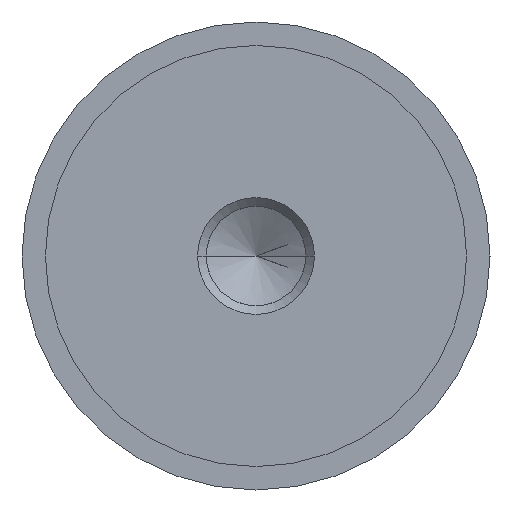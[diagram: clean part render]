
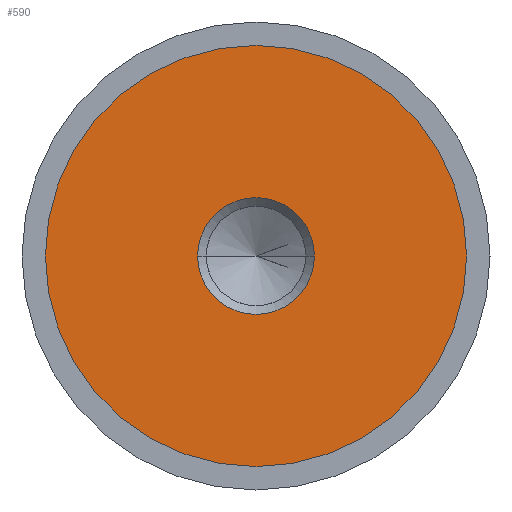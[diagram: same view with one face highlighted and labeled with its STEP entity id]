
A CAD part, left-side view. The second image highlights one B-rep face of the part: STEP entity #590.
In plain terms, the highlighted planar face has unit normal (-1, 0, 0).
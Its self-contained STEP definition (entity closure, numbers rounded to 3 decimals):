
#2 = CARTESIAN_POINT ( 'NONE',  ( -13.99, -4.99, 0. ) ) ;
#5 = EDGE_LOOP ( 'NONE', ( #245, #277 ) ) ;
#24 = CARTESIAN_POINT ( 'NONE',  ( -13.99, 18., 0. ) ) ;
#43 = CARTESIAN_POINT ( 'NONE',  ( -13.99, 0., 0. ) ) ;
#75 = PLANE ( 'NONE',  #603 ) ;
#83 = CARTESIAN_POINT ( 'NONE',  ( -13.99, 0., -18. ) ) ;
#161 = DIRECTION ( 'NONE',  ( 0., 0., 1. ) ) ;
#210 = AXIS2_PLACEMENT_3D ( 'NONE', #417, #472, #529 ) ;
#212 = EDGE_CURVE ( 'NONE', #513, #295, #237, .T. ) ;
#234 = CIRCLE ( 'NONE', #260, 4.99 ) ;
#237 = CIRCLE ( 'NONE', #210, 4.99 ) ;
#243 = CARTESIAN_POINT ( 'NONE',  ( -13.99, 0., 0. ) ) ;
#245 = ORIENTED_EDGE ( 'NONE', *, *, #760, .T. ) ;
#260 = AXIS2_PLACEMENT_3D ( 'NONE', #737, #669, #440 ) ;
#263 = FACE_OUTER_BOUND ( 'NONE', #5, .T. ) ;
#277 = ORIENTED_EDGE ( 'NONE', *, *, #562, .T. ) ;
#283 = EDGE_LOOP ( 'NONE', ( #457, #757 ) ) ;
#295 = VERTEX_POINT ( 'NONE', #744 ) ;
#308 = DIRECTION ( 'NONE',  ( 0., 0., -1. ) ) ;
#312 = AXIS2_PLACEMENT_3D ( 'NONE', #243, #650, #474 ) ;
#327 = DIRECTION ( 'NONE',  ( -1., 0., 0. ) ) ;
#376 = DIRECTION ( 'NONE',  ( 1., 0., 0. ) ) ;
#417 = CARTESIAN_POINT ( 'NONE',  ( -13.99, 0., 0. ) ) ;
#440 = DIRECTION ( 'NONE',  ( 0., 0., -1. ) ) ;
#457 = ORIENTED_EDGE ( 'NONE', *, *, #212, .T. ) ;
#472 = DIRECTION ( 'NONE',  ( 1., 0., 0. ) ) ;
#474 = DIRECTION ( 'NONE',  ( 0., 0., 1. ) ) ;
#513 = VERTEX_POINT ( 'NONE', #2 ) ;
#518 = VERTEX_POINT ( 'NONE', #542 ) ;
#529 = DIRECTION ( 'NONE',  ( 0., 0., -1. ) ) ;
#542 = CARTESIAN_POINT ( 'NONE',  ( -13.99, 0., 18. ) ) ;
#562 = EDGE_CURVE ( 'NONE', #652, #518, #675, .T. ) ;
#590 = ADVANCED_FACE ( 'NONE', ( #749, #263 ), #75, .F. ) ;
#603 = AXIS2_PLACEMENT_3D ( 'NONE', #24, #376, #308 ) ;
#605 = AXIS2_PLACEMENT_3D ( 'NONE', #43, #327, #161 ) ;
#645 = EDGE_CURVE ( 'NONE', #295, #513, #234, .T. ) ;
#650 = DIRECTION ( 'NONE',  ( -1., 0., 0. ) ) ;
#652 = VERTEX_POINT ( 'NONE', #83 ) ;
#669 = DIRECTION ( 'NONE',  ( 1., 0., 0. ) ) ;
#675 = CIRCLE ( 'NONE', #312, 18. ) ;
#737 = CARTESIAN_POINT ( 'NONE',  ( -13.99, 0., 0. ) ) ;
#744 = CARTESIAN_POINT ( 'NONE',  ( -13.99, 4.99, 0. ) ) ;
#745 = CIRCLE ( 'NONE', #605, 18. ) ;
#749 = FACE_BOUND ( 'NONE', #283, .T. ) ;
#757 = ORIENTED_EDGE ( 'NONE', *, *, #645, .T. ) ;
#760 = EDGE_CURVE ( 'NONE', #518, #652, #745, .T. ) ;
